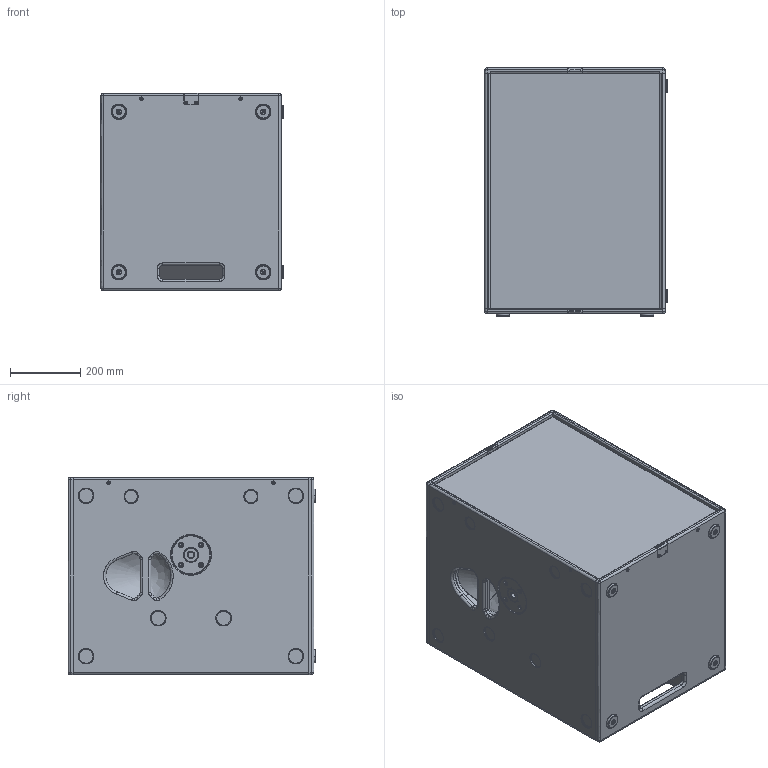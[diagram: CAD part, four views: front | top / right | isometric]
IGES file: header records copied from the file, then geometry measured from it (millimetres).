
Start section: SolidWorks IGES file using analytic representation for surfaces
Global section: file name: C:\Documents and Settings\Administrator\My Documents\Michl\SolidWorks\3d_Dateien_Homepage\New Folder\SEEBURG_K-Sub-1801.IGS; native system: SolidWorks 2009; preprocessor: SolidWorks 2009; author: Administrator; date: 140327.120925; units: millimetre
Bounding box: 517.5 x 704 x 560 mm (x, y, z)
Surface area: 4607266.7 mm2 (no closed solid volume)
Topology: 0 solids, 0 shells, 947 faces, 15482 edges, 15474 vertices
Faces by surface type: revolution 540, bspline 407
